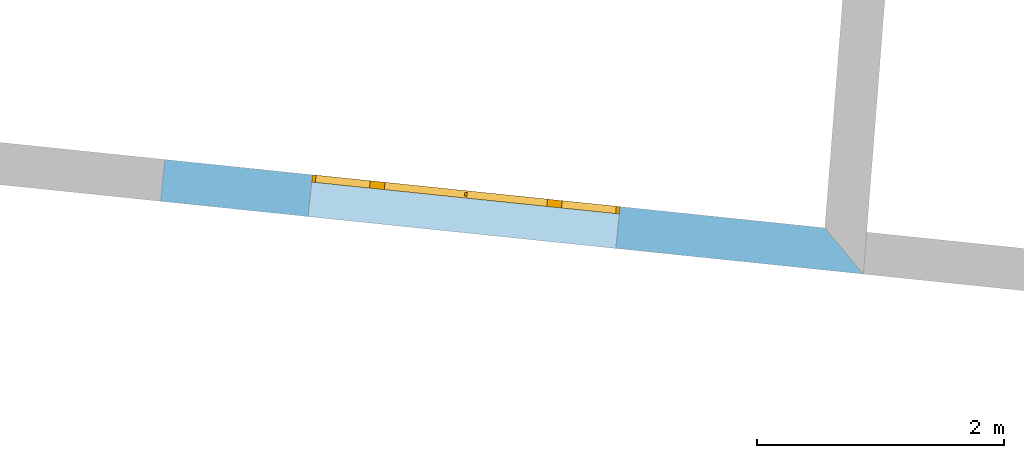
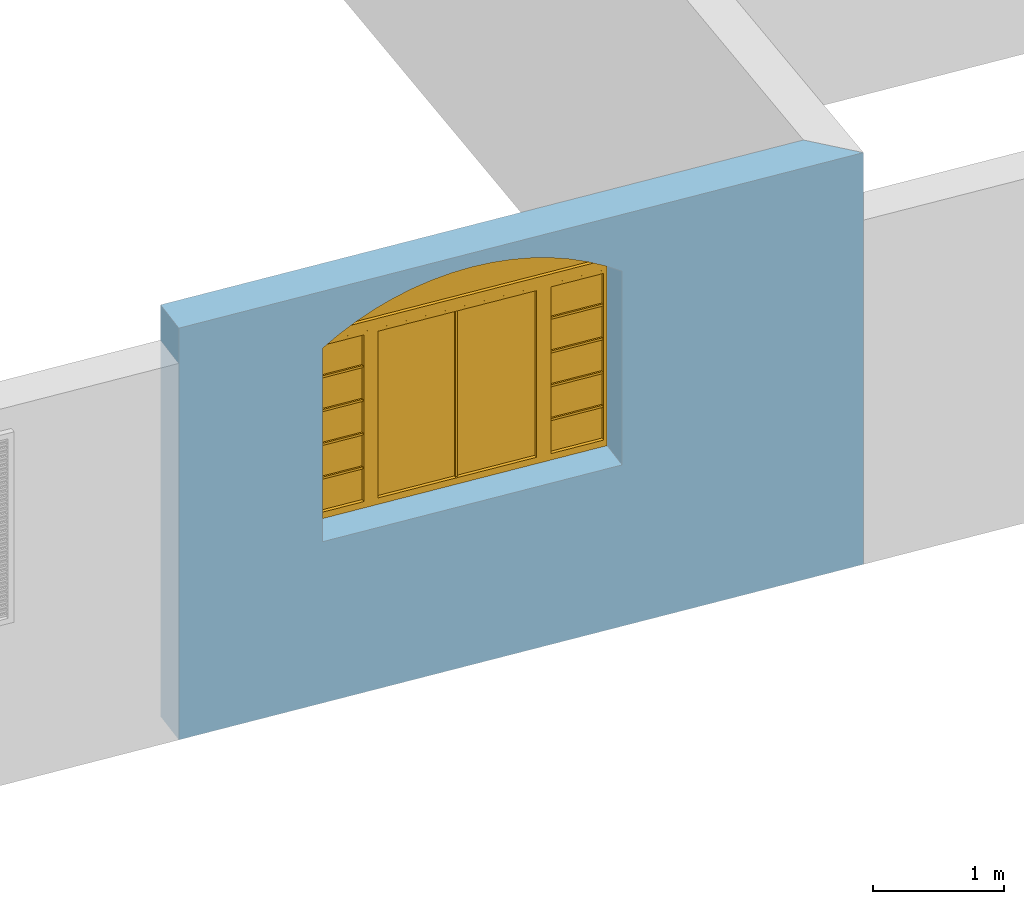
# One storey, part 114 of 171: 1 door, 1 opening, plus 1 element that does not belong to this part.
"""IFC2X3 building model written with IfcOpenShell, lengths in millimetres."""

from ifc_helpers import new_model, entity, si_unit, converted_unit, derived_unit, money_unit, direction, frame, origin_with_axes, place, context, subcontext, project, spatial, polyline, outline, extrude, open_shell, faceted_brep, surface_model, material, layer, layer_set, layer_usage, type_object, element, fill, save


model = new_model("IFC2X3")

# Units and contexts
model_context = context("Model", 3, precision=0.01, world=origin_with_axes(), true_north=direction((0.0, 1.0)))
body_context = subcontext(model_context, "Body", "Model", "MODEL_VIEW")
ifc_project = project(units=[si_unit("LENGTHUNIT", "METRE", prefix="MILLI"), si_unit("AREAUNIT", "SQUARE_METRE"), si_unit("VOLUMEUNIT", "CUBIC_METRE"), converted_unit("PLANEANGLEUNIT", "DEGREE", entity("IfcPlaneAngleMeasure", 0.0174532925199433), si_unit("PLANEANGLEUNIT", "RADIAN"), dimensions=[0, 0, 0, 0, 0, 0, 0]), money_unit("USD"), converted_unit("TIMEUNIT", "Year", entity("IfcTimeMeasure", 31557600.0), si_unit("TIMEUNIT", "SECOND"), dimensions=[0, 0, 1, 0, 0, 0, 0]), si_unit("MASSUNIT", "GRAM", prefix="KILO"), si_unit("THERMODYNAMICTEMPERATUREUNIT", "DEGREE_CELSIUS"), si_unit("LUMINOUSINTENSITYUNIT", "LUMEN"), si_unit("ENERGYUNIT", "JOULE", prefix="MEGA"), derived_unit("THERMALCONDUCTANCEUNIT", [(si_unit("POWERUNIT", "WATT"), 1), (si_unit("LENGTHUNIT", "METRE"), -1), (si_unit("THERMODYNAMICTEMPERATUREUNIT", "KELVIN"), -1)]), derived_unit("SPECIFICHEATCAPACITYUNIT", [(si_unit("ENERGYUNIT", "JOULE"), 1), (si_unit("MASSUNIT", "GRAM", prefix="KILO"), -1), (si_unit("THERMODYNAMICTEMPERATUREUNIT", "KELVIN"), -1)]), derived_unit("MASSDENSITYUNIT", [(si_unit("MASSUNIT", "GRAM", prefix="KILO"), 1), (si_unit("VOLUMEUNIT", "CUBIC_METRE"), -1)])], contexts=[model_context])

# Site, building, storey
site_placement = place(None, origin_with_axes())
site = spatial("IfcSite", under=ifc_project, at=site_placement, Name="Site", CompositionType="ELEMENT")
building_placement = place(site_placement, origin_with_axes())
building = spatial("IfcBuilding", under=site, at=building_placement, Name="Bâtiment", CompositionType="ELEMENT")
storey_placement = place(building_placement, frame((0.0, 0.0, 3000.0), z_axis=(0.0, 0.0, 1.0), x_axis=(1.0, 0.0, 0.0)))
storey = spatial("IfcBuildingStorey", under=building, at=storey_placement, Name="rdc", CompositionType="ELEMENT", Elevation=3000.0)

# Wall, opening, door
ifc_material = material(Name="Empty Fill 272047960")
ifc_layer = layer(ifc_material, 339.9999999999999, ventilated="UNKNOWN")
ifc_layer_set = layer_set([ifc_layer], Name="Empty Fill 272047960 340")
ifc_layer_usage = layer_usage(ifc_layer_set, "AXIS2", "NEGATIVE", 0.0)
wall_type = type_object("IfcWallType", Name="Empty Fill 272047960 340", PredefinedType="NOTDEFINED")
wall_placement = place(storey_placement, frame((2251563.241222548, -592341.9661351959, -500.0), z_axis=(0.0, 0.0, 1.0), x_axis=(-0.994678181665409, 0.103030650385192, 0.0)))
wall = element("IfcWallStandardCase", 1, at=wall_placement, inside=storey, type_object=wall_type, material=ifc_layer_usage, Name="Mur-143", context=body_context, shape_type="SweptSolid", body=[
    extrude(outline(polyline([(348.6680963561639, -339.9999999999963), (5710.689780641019, -339.9999999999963), (5710.689780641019, 0.0), (0.0, 0.0), (348.6680963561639, -339.9999999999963)])), origin_with_axes(), (0.0, 0.0, 1.0), 3827.624612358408),
])
opening_placement = place(wall_placement, frame((3262.311113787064, 0.0, 1500.0), z_axis=(0.0, 0.0, 1.0), x_axis=(1.0, 0.0, 0.0)))
opening = element("IfcOpeningElement", 2, at=opening_placement, cuts=wall, Name="Por-285", context=body_context, shape_type="SweptSolid", body=[
    extrude(outline(polyline([(-1250.0, 0.0), (-1250.0, -1800.0), (-1110.653739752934, -1891.433357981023), (-964.6527194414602, -1971.814582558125), (-812.871740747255, -2040.662049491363), (-656.220237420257, -2097.563241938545), (-495.6368261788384, -2142.177222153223), (-332.0836827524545, -2174.236674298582), (-166.5407767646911, -2193.549506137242), (0.0, -2200.0), (166.5407767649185, -2193.549506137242), (332.0836827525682, -2174.236674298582), (495.6368261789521, -2142.177222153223), (656.2202374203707, -2097.563241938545), (812.8717407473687, -2040.662049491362), (964.6527194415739, -1971.814582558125), (1110.653739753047, -1891.433357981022), (1250.000000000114, -1800.000000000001), (1250.000000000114, 0.0), (-1250.0, 0.0)])), frame((0.0, 339.9999999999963, 0.0), z_axis=(0.0, 1.0, 0.0), x_axis=(1.0, 0.0, 0.0)), (0.0, 0.0, -1.0), 679.9999999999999),
])
door_style = type_object("IfcDoorStyle", ConstructionType="NOTDEFINED", OperationType="NOTDEFINED", ParameterTakesPrecedence=False, Sizeable=False)
door_placement = place(opening_placement, frame((1250.000000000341, 0.0, 0.0), z_axis=(0.0, 0.0, 1.0), x_axis=(-1.0, 0.0, 0.0)))
door = element("IfcDoor", 3, at=door_placement, inside=storey, type_object=door_style, Name="Por-285", OverallHeight=2200.0, OverallWidth=2500.0, context=body_context, shape_type="SurfaceModel", body=[
    surface_model("IfcShellBasedSurfaceModel", [(590.0000000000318, 309.9999999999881, 59.99999999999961), (590.0000000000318, 309.9999999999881, 1609.9), (1909.999999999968, 309.9999999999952, 1609.89999999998), (1909.999999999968, 309.9999999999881, 59.99999999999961)], [open_shell([[[0, 1, 2, 3]]])]),
    faceted_brep([(1240.000000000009, 309.999999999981, 60.0000000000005), (1260.000000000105, 309.9999999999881, 60.0000000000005), (1260.000000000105, 309.9999999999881, 1609.89999999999), (1240.000000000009, 309.999999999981, 1609.899999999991), (1240.000000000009, 324.9999999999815, 60.0000000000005), (1260.000000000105, 324.9999999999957, 60.0000000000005), (1260.000000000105, 324.9999999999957, 1609.89999999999), (1240.000000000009, 324.9999999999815, 1609.899999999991)], [[[0, 1, 2, 3]], [[4, 5, 1, 0]], [[2, 1, 5, 6]], [[3, 2, 6, 7]], [[7, 4, 0, 3]], [[7, 6, 5, 4]]]),
    faceted_brep([(1240.000000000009, 294.9999999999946, 60.0000000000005), (1260.000000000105, 294.9999999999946, 60.0000000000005), (1260.000000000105, 294.9999999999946, 1609.89999999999), (1240.000000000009, 294.9999999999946, 1609.899999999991), (1240.000000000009, 309.999999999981, 60.0000000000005), (1260.000000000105, 309.9999999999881, 60.0000000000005), (1260.000000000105, 309.9999999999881, 1609.89999999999), (1240.000000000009, 309.999999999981, 1609.899999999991)], [[[0, 1, 2, 3]], [[4, 5, 1, 0]], [[2, 1, 5, 6]], [[3, 2, 6, 7]], [[7, 4, 0, 3]], [[7, 6, 5, 4]]]),
    faceted_brep([(560.0000000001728, 280.0000000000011, 59.99999999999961), (560.0000000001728, 280.0000000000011, 1639.9), (559.9999999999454, 339.9999999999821, 1639.9), (559.9999999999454, 339.9999999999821, 59.99999999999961), (590.0000000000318, 279.999999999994, 59.99999999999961), (590.0000000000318, 279.999999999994, 1609.9), (1910.000000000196, 279.999999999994, 1609.9), (1910.000000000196, 279.999999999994, 59.99999999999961), (1940.000000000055, 279.9999999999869, 59.99999999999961), (1940.000000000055, 279.9999999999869, 1639.9), (1940.000000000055, 339.9999999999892, 1639.9), (1940.000000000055, 339.9999999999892, 59.99999999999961), (1909.999999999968, 339.9999999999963, 59.99999999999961), (1909.999999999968, 339.9999999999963, 1609.9), (590.0000000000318, 339.9999999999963, 1609.9), (590.0000000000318, 339.9999999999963, 59.99999999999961)], [[[0, 1, 2, 3]], [[4, 5, 6, 7, 8, 9, 1, 0]], [[1, 9, 10, 2]], [[3, 2, 10, 11, 12, 13, 14, 15]], [[0, 3, 15, 4]], [[15, 14, 5, 4]], [[14, 13, 6, 5]], [[13, 12, 7, 6]], [[8, 7, 12, 11]], [[9, 8, 11, 10]]]),
    faceted_brep([(1940.000000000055, 339.9999999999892, 59.99999999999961), (1940.000000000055, 279.9999999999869, 59.99999999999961), (1940.000000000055, 279.9999999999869, 0.0), (1940.000000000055, 339.9999999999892, 0.0), (559.9999999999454, 339.9999999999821, 59.99999999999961), (560.0000000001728, 280.0000000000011, 59.99999999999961), (560.0000000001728, 280.0000000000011, 0.0), (559.9999999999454, 339.9999999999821, 0.0)], [[[0, 1, 2, 3]], [[4, 5, 1, 0]], [[1, 5, 6, 2]], [[3, 2, 6, 7]], [[0, 3, 7, 4]], [[7, 6, 5, 4]]]),
    surface_model("IfcShellBasedSurfaceModel", [(30.0000000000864, 309.9999999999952, 1730.0), (30.0000000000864, 309.9999999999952, 1783.803162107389), (166.3455908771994, 309.9999999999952, 1872.121819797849), (309.0530282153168, 309.9999999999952, 1949.742002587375), (457.2845146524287, 309.9999999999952, 2016.20802305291), (610.169822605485, 309.9999999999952, 2071.129676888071), (766.811403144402, 309.9999999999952, 2114.184533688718), (926.2896552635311, 309.9999999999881, 2145.119829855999), (1087.668324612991, 309.9999999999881, 2163.753952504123), (1250.000000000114, 309.9999999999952, 2169.977505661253), (1412.331675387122, 309.9999999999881, 2163.753952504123), (1573.710344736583, 309.9999999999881, 2145.119829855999), (1733.188596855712, 309.999999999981, 2114.184533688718), (1889.830177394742, 309.9999999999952, 2071.129676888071), (2042.715485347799, 309.9999999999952, 2016.20802305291), (2190.946971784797, 309.999999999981, 1949.742002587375), (2333.654409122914, 309.999999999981, 1872.121819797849), (2470.000000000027, 309.9999999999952, 1783.803162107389), (2470.000000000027, 309.9999999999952, 1730.0)], [open_shell([[[0, 1, 2, 3, 4, 5, 6, 7, 8, 9, 10, 11, 12, 13, 14, 15, 16, 17, 18]]])]),
    faceted_brep([(0.0, 279.9999999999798, 1730.0), (0.0, 279.9999999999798, 1800.000000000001), (0.0, 339.9999999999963, 1800.000000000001), (0.0, 339.9999999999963, 1730.0), (29.99999999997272, 279.999999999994, 1730.0), (29.99999999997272, 279.999999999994, 1783.803162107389), (154.8328648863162, 279.999999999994, 1865.713419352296), (298.7980931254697, 279.999999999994, 1944.973833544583), (448.4626858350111, 279.9999999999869, 2012.861313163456), (602.9298901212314, 279.9999999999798, 2068.969093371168), (761.2741770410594, 279.9999999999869, 2112.960990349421), (922.5467871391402, 279.999999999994, 2144.573415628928), (1085.781415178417, 279.999999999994, 2163.61695544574), (1250.0, 279.999999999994, 2169.977505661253), (1414.218584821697, 279.9999999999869, 2163.61695544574), (1577.453212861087, 279.999999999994, 2144.573415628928), (1738.725822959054, 279.9999999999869, 2112.960990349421), (1897.070109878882, 279.999999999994, 2068.969093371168), (2051.537314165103, 279.9999999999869, 2012.861313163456), (2201.201906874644, 279.9999999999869, 1944.973833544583), (2345.167135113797, 279.9999999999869, 1865.713419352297), (2470.000000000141, 280.0000000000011, 1783.803162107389), (2470.000000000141, 280.0000000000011, 1730.0), (2500.0, 279.9999999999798, 1730.0), (2500.0, 279.9999999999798, 1800.000000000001), (2360.653739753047, 279.9999999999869, 1891.433357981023), (2214.652719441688, 279.999999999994, 1971.814582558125), (2062.871740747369, 279.9999999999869, 2040.662049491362), (1906.220237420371, 279.999999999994, 2097.563241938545), (1745.636826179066, 279.999999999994, 2142.177222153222), (1582.083682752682, 279.999999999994, 2174.236674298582), (1416.540776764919, 279.999999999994, 2193.549506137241), (1250.0, 279.999999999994, 2200.0), (1083.459223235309, 279.9999999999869, 2193.549506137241), (917.9163172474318, 279.999999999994, 2174.236674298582), (754.3631738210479, 279.9999999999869, 2142.177222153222), (593.7797625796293, 279.9999999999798, 2097.563241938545), (437.128259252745, 279.9999999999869, 2040.662049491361), (285.3472805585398, 279.999999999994, 1971.814582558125), (139.3462602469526, 279.999999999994, 1891.433357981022), (139.3462602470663, 339.9999999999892, 1891.433357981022), (285.3472805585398, 339.9999999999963, 1971.814582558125), (437.128259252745, 339.9999999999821, 2040.662049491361), (593.779762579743, 339.9999999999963, 2097.563241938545), (754.3631738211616, 339.9999999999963, 2142.177222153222), (917.9163172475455, 339.9999999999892, 2174.236674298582), (1083.459223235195, 339.9999999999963, 2193.549506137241), (1250.000000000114, 339.9999999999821, 2200.0), (1416.540776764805, 339.9999999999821, 2193.549506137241), (1582.083682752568, 339.9999999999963, 2174.236674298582), (1745.636826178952, 339.9999999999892, 2142.177222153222), (1906.220237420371, 339.9999999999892, 2097.563241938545), (2062.871740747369, 339.9999999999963, 2040.662049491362), (2214.652719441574, 339.9999999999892, 1971.814582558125), (2360.653739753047, 339.9999999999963, 1891.433357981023), (2500.000000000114, 339.9999999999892, 1800.000000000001), (2500.000000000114, 339.9999999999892, 1730.0), (2470.000000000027, 339.9999999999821, 1730.0), (2470.000000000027, 339.9999999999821, 1783.803162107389), (2345.167135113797, 339.9999999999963, 1865.713419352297), (2201.201906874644, 339.9999999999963, 1944.973833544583), (2051.537314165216, 339.9999999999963, 2012.861313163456), (1897.070109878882, 339.9999999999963, 2068.969093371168), (1738.725822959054, 339.9999999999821, 2112.960990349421), (1577.453212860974, 339.9999999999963, 2144.573415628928), (1414.218584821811, 339.9999999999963, 2163.61695544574), (1250.000000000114, 339.9999999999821, 2169.977505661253), (1085.781415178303, 339.9999999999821, 2163.61695544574), (922.5467871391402, 339.9999999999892, 2144.573415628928), (761.2741770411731, 340.0000000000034, 2112.960990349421), (602.9298901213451, 339.9999999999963, 2068.969093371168), (448.4626858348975, 339.9999999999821, 2012.861313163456), (298.7980931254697, 339.9999999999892, 1944.973833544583), (154.8328648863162, 339.9999999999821, 1865.713419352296), (30.0000000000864, 340.0000000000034, 1783.803162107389), (30.0000000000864, 340.0000000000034, 1730.0)], [[[0, 1, 2, 3]], [[4, 5, 6, 7, 8, 9, 10, 11, 12, 13, 14, 15, 16, 17, 18, 19, 20, 21, 22, 23, 24, 25, 26, 27, 28, 29, 30, 31, 32, 33, 34, 35, 36, 37, 38, 39, 1, 0]], [[1, 39, 40, 2]], [[3, 2, 40, 41, 42, 43, 44, 45, 46, 47, 48, 49, 50, 51, 52, 53, 54, 55, 56, 57, 58, 59, 60, 61, 62, 63, 64, 65, 66, 67, 68, 69, 70, 71, 72, 73, 74, 75]], [[0, 3, 75, 4]], [[75, 74, 5, 4]], [[74, 73, 6, 5]], [[73, 72, 7, 6]], [[72, 71, 8, 7]], [[71, 70, 9, 8]], [[70, 69, 10, 9]], [[69, 68, 11, 10]], [[68, 67, 12, 11]], [[67, 66, 13, 12]], [[66, 65, 14, 13]], [[65, 64, 15, 14]], [[64, 63, 16, 15]], [[63, 62, 17, 16]], [[62, 61, 18, 17]], [[61, 60, 19, 18]], [[60, 59, 20, 19]], [[59, 58, 21, 20]], [[58, 57, 22, 21]], [[23, 22, 57, 56]], [[24, 23, 56, 55]], [[25, 24, 55, 54]], [[26, 25, 54, 53]], [[27, 26, 53, 52]], [[28, 27, 52, 51]], [[29, 28, 51, 50]], [[30, 29, 50, 49]], [[31, 30, 49, 48]], [[32, 31, 48, 47]], [[33, 32, 47, 46]], [[34, 33, 46, 45]], [[35, 34, 45, 44]], [[36, 35, 44, 43]], [[37, 36, 43, 42]], [[38, 37, 42, 41]], [[39, 38, 41, 40]]]),
    faceted_brep([(2500.000000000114, 339.9999999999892, 1730.0), (2500.0, 279.9999999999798, 1730.0), (2500.0, 279.9999999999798, 1700.0), (2500.000000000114, 339.9999999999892, 1700.0), (0.0, 339.9999999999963, 1730.0), (0.0, 279.9999999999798, 1730.0), (0.0, 279.9999999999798, 1700.0), (0.0, 339.9999999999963, 1700.0)], [[[0, 1, 2, 3]], [[4, 5, 1, 0]], [[1, 5, 6, 2]], [[3, 2, 6, 7]], [[0, 3, 7, 4]], [[7, 6, 5, 4]]]),
    surface_model("IfcShellBasedSurfaceModel", [(2030.000000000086, 309.9999999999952, 59.99999999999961), (2030.000000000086, 309.9999999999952, 1609.9), (2470.000000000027, 309.9999999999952, 1609.900000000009), (2470.000000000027, 309.9999999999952, 59.99999999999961)], [open_shell([[[0, 1, 2, 3]]])]),
    faceted_brep([(2030.000000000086, 324.9999999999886, 1315.999992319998), (2030.000000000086, 324.9999999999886, 1295.999992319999), (2030.000000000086, 309.9999999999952, 1295.999992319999), (2030.000000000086, 309.9999999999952, 1315.999992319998), (2469.999999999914, 324.9999999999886, 1315.999992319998), (2469.999999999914, 324.9999999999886, 1295.999992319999), (2470.000000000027, 309.9999999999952, 1295.999992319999), (2470.000000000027, 309.9999999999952, 1315.999992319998)], [[[0, 1, 2, 3]], [[4, 5, 1, 0]], [[2, 1, 5, 6]], [[3, 2, 6, 7]], [[7, 4, 0, 3]], [[7, 6, 5, 4]]]),
    faceted_brep([(2030.000000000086, 309.9999999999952, 981.9999942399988), (2030.000000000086, 309.9999999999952, 1001.999994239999), (2030.000000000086, 324.9999999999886, 1001.999994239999), (2030.000000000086, 324.9999999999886, 981.9999942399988), (2470.000000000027, 309.9999999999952, 981.9999942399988), (2470.000000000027, 309.9999999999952, 1001.999994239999), (2469.999999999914, 324.9999999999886, 1001.999994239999), (2469.999999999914, 324.9999999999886, 981.9999942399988)], [[[0, 1, 2, 3]], [[4, 5, 1, 0]], [[2, 1, 5, 6]], [[3, 2, 6, 7]], [[7, 4, 0, 3]], [[7, 6, 5, 4]]]),
    faceted_brep([(2030.000000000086, 324.9999999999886, 687.9999961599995), (2030.000000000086, 324.9999999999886, 667.999996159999), (2030.000000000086, 309.9999999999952, 667.999996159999), (2030.000000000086, 309.9999999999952, 687.9999961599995), (2469.999999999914, 324.9999999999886, 687.9999961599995), (2469.999999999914, 324.9999999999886, 667.999996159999), (2470.000000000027, 309.9999999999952, 667.999996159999), (2470.000000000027, 309.9999999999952, 687.9999961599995)], [[[0, 1, 2, 3]], [[4, 5, 1, 0]], [[2, 1, 5, 6]], [[3, 2, 6, 7]], [[7, 4, 0, 3]], [[7, 6, 5, 4]]]),
    faceted_brep([(2030.000000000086, 309.9999999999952, 353.99999808), (2030.000000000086, 309.9999999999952, 373.9999980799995), (2030.000000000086, 324.9999999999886, 373.9999980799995), (2030.000000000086, 324.9999999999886, 353.99999808), (2470.000000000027, 309.9999999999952, 353.99999808), (2470.000000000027, 309.9999999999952, 373.9999980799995), (2469.999999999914, 324.9999999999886, 373.9999980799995), (2469.999999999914, 324.9999999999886, 353.99999808)], [[[0, 1, 2, 3]], [[4, 5, 1, 0]], [[2, 1, 5, 6]], [[3, 2, 6, 7]], [[7, 4, 0, 3]], [[7, 6, 5, 4]]]),
    faceted_brep([(2030.000000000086, 309.9999999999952, 1315.999992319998), (2030.000000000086, 309.9999999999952, 1295.999992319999), (2030.000000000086, 294.9999999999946, 1295.999992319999), (2030.000000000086, 294.9999999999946, 1315.999992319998), (2470.000000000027, 309.9999999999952, 1315.999992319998), (2470.000000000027, 309.9999999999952, 1295.999992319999), (2470.000000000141, 294.9999999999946, 1295.999992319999), (2470.000000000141, 294.9999999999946, 1315.999992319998)], [[[0, 1, 2, 3]], [[4, 5, 1, 0]], [[2, 1, 5, 6]], [[3, 2, 6, 7]], [[7, 4, 0, 3]], [[7, 6, 5, 4]]]),
    faceted_brep([(2030.000000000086, 294.9999999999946, 981.9999942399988), (2030.000000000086, 294.9999999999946, 1001.999994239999), (2030.000000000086, 309.9999999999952, 1001.999994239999), (2030.000000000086, 309.9999999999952, 981.9999942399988), (2470.000000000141, 294.9999999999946, 981.9999942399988), (2470.000000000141, 294.9999999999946, 1001.999994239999), (2470.000000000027, 309.9999999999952, 1001.999994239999), (2470.000000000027, 309.9999999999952, 981.9999942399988)], [[[0, 1, 2, 3]], [[4, 5, 1, 0]], [[2, 1, 5, 6]], [[3, 2, 6, 7]], [[7, 4, 0, 3]], [[7, 6, 5, 4]]]),
    faceted_brep([(2030.000000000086, 309.9999999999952, 687.9999961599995), (2030.000000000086, 309.9999999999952, 667.999996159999), (2030.000000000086, 294.9999999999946, 667.999996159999), (2030.000000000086, 294.9999999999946, 687.9999961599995), (2470.000000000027, 309.9999999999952, 687.9999961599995), (2470.000000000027, 309.9999999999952, 667.999996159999), (2470.000000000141, 294.9999999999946, 667.999996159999), (2470.000000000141, 294.9999999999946, 687.9999961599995)], [[[0, 1, 2, 3]], [[4, 5, 1, 0]], [[2, 1, 5, 6]], [[3, 2, 6, 7]], [[7, 4, 0, 3]], [[7, 6, 5, 4]]]),
    faceted_brep([(2030.000000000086, 294.9999999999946, 353.99999808), (2030.000000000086, 294.9999999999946, 373.9999980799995), (2030.000000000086, 309.9999999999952, 373.9999980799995), (2030.000000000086, 309.9999999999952, 353.99999808), (2470.000000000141, 294.9999999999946, 353.99999808), (2470.000000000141, 294.9999999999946, 373.9999980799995), (2470.000000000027, 309.9999999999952, 373.9999980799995), (2470.000000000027, 309.9999999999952, 353.99999808)], [[[0, 1, 2, 3]], [[4, 5, 1, 0]], [[2, 1, 5, 6]], [[3, 2, 6, 7]], [[7, 4, 0, 3]], [[7, 6, 5, 4]]]),
    faceted_brep([(2000.000000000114, 279.999999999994, 59.99999999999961), (2000.000000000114, 279.999999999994, 1639.9), (2000.0, 339.9999999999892, 1639.9), (2000.0, 339.9999999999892, 59.99999999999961), (2030.000000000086, 279.9999999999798, 59.99999999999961), (2030.000000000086, 279.9999999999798, 1609.9), (2470.000000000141, 280.0000000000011, 1609.9), (2470.000000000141, 280.0000000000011, 59.99999999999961), (2500.0, 279.9999999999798, 59.99999999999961), (2500.0, 279.9999999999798, 1639.9), (2500.000000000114, 339.9999999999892, 1639.9), (2500.000000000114, 339.9999999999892, 59.99999999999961), (2470.000000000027, 339.9999999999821, 59.99999999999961), (2470.000000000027, 339.9999999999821, 1609.9), (2030.000000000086, 339.9999999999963, 1609.9), (2030.000000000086, 339.9999999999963, 59.99999999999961)], [[[0, 1, 2, 3]], [[4, 5, 6, 7, 8, 9, 1, 0]], [[1, 9, 10, 2]], [[3, 2, 10, 11, 12, 13, 14, 15]], [[0, 3, 15, 4]], [[15, 14, 5, 4]], [[14, 13, 6, 5]], [[13, 12, 7, 6]], [[8, 7, 12, 11]], [[9, 8, 11, 10]]]),
    faceted_brep([(2500.000000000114, 339.9999999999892, 59.99999999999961), (2500.0, 279.9999999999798, 59.99999999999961), (2500.0, 279.9999999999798, 0.0), (2500.000000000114, 339.9999999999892, 0.0), (2000.0, 339.9999999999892, 59.99999999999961), (2000.000000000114, 279.999999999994, 59.99999999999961), (2000.000000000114, 279.999999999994, 0.0), (2000.0, 339.9999999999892, 0.0)], [[[0, 1, 2, 3]], [[4, 5, 1, 0]], [[1, 5, 6, 2]], [[3, 2, 6, 7]], [[0, 3, 7, 4]], [[7, 6, 5, 4]]]),
    surface_model("IfcShellBasedSurfaceModel", [(30.0000000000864, 309.9999999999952, 59.99999999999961), (30.0000000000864, 309.9999999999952, 1609.9), (470.0000000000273, 309.999999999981, 1609.900000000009), (470.0000000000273, 309.999999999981, 59.99999999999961)], [open_shell([[[0, 1, 2, 3]]])]),
    faceted_brep([(30.0000000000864, 324.9999999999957, 1315.999992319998), (30.0000000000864, 324.9999999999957, 1295.999992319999), (30.0000000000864, 309.9999999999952, 1295.999992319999), (30.0000000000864, 309.9999999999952, 1315.999992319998), (470.0000000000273, 324.9999999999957, 1315.999992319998), (470.0000000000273, 324.9999999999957, 1295.999992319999), (470.0000000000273, 309.999999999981, 1295.999992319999), (470.0000000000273, 309.999999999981, 1315.999992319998)], [[[0, 1, 2, 3]], [[4, 5, 1, 0]], [[2, 1, 5, 6]], [[3, 2, 6, 7]], [[7, 4, 0, 3]], [[7, 6, 5, 4]]]),
    faceted_brep([(30.0000000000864, 309.9999999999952, 981.9999942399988), (30.0000000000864, 309.9999999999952, 1001.999994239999), (30.0000000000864, 324.9999999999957, 1001.999994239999), (30.0000000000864, 324.9999999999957, 981.9999942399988), (470.0000000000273, 309.999999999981, 981.9999942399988), (470.0000000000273, 309.999999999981, 1001.999994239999), (470.0000000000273, 324.9999999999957, 1001.999994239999), (470.0000000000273, 324.9999999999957, 981.9999942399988)], [[[0, 1, 2, 3]], [[4, 5, 1, 0]], [[2, 1, 5, 6]], [[3, 2, 6, 7]], [[7, 4, 0, 3]], [[7, 6, 5, 4]]]),
    faceted_brep([(30.0000000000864, 324.9999999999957, 687.9999961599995), (30.0000000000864, 324.9999999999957, 667.999996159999), (30.0000000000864, 309.9999999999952, 667.999996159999), (30.0000000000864, 309.9999999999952, 687.9999961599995), (470.0000000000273, 324.9999999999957, 687.9999961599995), (470.0000000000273, 324.9999999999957, 667.999996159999), (470.0000000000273, 309.999999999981, 667.999996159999), (470.0000000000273, 309.999999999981, 687.9999961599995)], [[[0, 1, 2, 3]], [[4, 5, 1, 0]], [[2, 1, 5, 6]], [[3, 2, 6, 7]], [[7, 4, 0, 3]], [[7, 6, 5, 4]]]),
    faceted_brep([(30.0000000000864, 309.9999999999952, 353.99999808), (30.0000000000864, 309.9999999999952, 373.9999980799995), (30.0000000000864, 324.9999999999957, 373.9999980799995), (30.0000000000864, 324.9999999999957, 353.99999808), (470.0000000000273, 309.999999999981, 353.99999808), (470.0000000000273, 309.999999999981, 373.9999980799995), (470.0000000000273, 324.9999999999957, 373.9999980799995), (470.0000000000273, 324.9999999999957, 353.99999808)], [[[0, 1, 2, 3]], [[4, 5, 1, 0]], [[2, 1, 5, 6]], [[3, 2, 6, 7]], [[7, 4, 0, 3]], [[7, 6, 5, 4]]]),
    faceted_brep([(30.0000000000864, 309.9999999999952, 1315.999992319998), (30.0000000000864, 309.9999999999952, 1295.999992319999), (30.0000000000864, 294.9999999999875, 1295.999992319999), (30.0000000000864, 294.9999999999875, 1315.999992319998), (470.0000000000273, 309.999999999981, 1315.999992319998), (470.0000000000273, 309.999999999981, 1295.999992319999), (470.0000000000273, 294.9999999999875, 1295.999992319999), (470.0000000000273, 294.9999999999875, 1315.999992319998)], [[[0, 1, 2, 3]], [[4, 5, 1, 0]], [[2, 1, 5, 6]], [[3, 2, 6, 7]], [[7, 4, 0, 3]], [[7, 6, 5, 4]]]),
    faceted_brep([(30.0000000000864, 294.9999999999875, 981.9999942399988), (30.0000000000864, 294.9999999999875, 1001.999994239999), (30.0000000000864, 309.9999999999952, 1001.999994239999), (30.0000000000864, 309.9999999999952, 981.9999942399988), (470.0000000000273, 294.9999999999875, 981.9999942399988), (470.0000000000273, 294.9999999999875, 1001.999994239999), (470.0000000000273, 309.999999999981, 1001.999994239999), (470.0000000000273, 309.999999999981, 981.9999942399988)], [[[0, 1, 2, 3]], [[4, 5, 1, 0]], [[2, 1, 5, 6]], [[3, 2, 6, 7]], [[7, 4, 0, 3]], [[7, 6, 5, 4]]]),
    faceted_brep([(30.0000000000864, 309.9999999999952, 687.9999961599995), (30.0000000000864, 309.9999999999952, 667.999996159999), (30.0000000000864, 294.9999999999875, 667.999996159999), (30.0000000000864, 294.9999999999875, 687.9999961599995), (470.0000000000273, 309.999999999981, 687.9999961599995), (470.0000000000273, 309.999999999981, 667.999996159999), (470.0000000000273, 294.9999999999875, 667.999996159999), (470.0000000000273, 294.9999999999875, 687.9999961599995)], [[[0, 1, 2, 3]], [[4, 5, 1, 0]], [[2, 1, 5, 6]], [[3, 2, 6, 7]], [[7, 4, 0, 3]], [[7, 6, 5, 4]]]),
    faceted_brep([(30.0000000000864, 294.9999999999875, 353.99999808), (30.0000000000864, 294.9999999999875, 373.9999980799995), (30.0000000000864, 309.9999999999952, 373.9999980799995), (30.0000000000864, 309.9999999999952, 353.99999808), (470.0000000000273, 294.9999999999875, 353.99999808), (470.0000000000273, 294.9999999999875, 373.9999980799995), (470.0000000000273, 309.999999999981, 373.9999980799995), (470.0000000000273, 309.999999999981, 353.99999808)], [[[0, 1, 2, 3]], [[4, 5, 1, 0]], [[2, 1, 5, 6]], [[3, 2, 6, 7]], [[7, 4, 0, 3]], [[7, 6, 5, 4]]]),
    faceted_brep([(0.0, 279.9999999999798, 59.99999999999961), (0.0, 279.9999999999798, 1639.9), (0.0, 339.9999999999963, 1639.9), (0.0, 339.9999999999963, 59.99999999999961), (29.99999999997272, 279.999999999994, 59.99999999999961), (29.99999999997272, 279.999999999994, 1609.9), (470.0000000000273, 279.999999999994, 1609.9), (470.0000000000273, 279.999999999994, 59.99999999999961), (500.0000000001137, 279.9999999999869, 59.99999999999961), (500.0000000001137, 279.9999999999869, 1639.9), (500.0, 339.9999999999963, 1639.9), (500.0, 339.9999999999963, 59.99999999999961), (470.0000000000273, 339.9999999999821, 59.99999999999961), (470.0000000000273, 339.9999999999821, 1609.9), (30.0000000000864, 340.0000000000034, 1609.9), (30.0000000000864, 340.0000000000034, 59.99999999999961)], [[[0, 1, 2, 3]], [[4, 5, 6, 7, 8, 9, 1, 0]], [[1, 9, 10, 2]], [[3, 2, 10, 11, 12, 13, 14, 15]], [[0, 3, 15, 4]], [[15, 14, 5, 4]], [[14, 13, 6, 5]], [[13, 12, 7, 6]], [[8, 7, 12, 11]], [[9, 8, 11, 10]]]),
    faceted_brep([(500.0, 339.9999999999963, 59.99999999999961), (500.0000000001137, 279.9999999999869, 59.99999999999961), (500.0000000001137, 279.9999999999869, 0.0), (500.0, 339.9999999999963, 0.0), (0.0, 339.9999999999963, 59.99999999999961), (0.0, 279.9999999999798, 59.99999999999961), (0.0, 279.9999999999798, 0.0), (0.0, 339.9999999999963, 0.0)], [[[0, 1, 2, 3]], [[4, 5, 1, 0]], [[1, 5, 6, 2]], [[3, 2, 6, 7]], [[0, 3, 7, 4]], [[7, 6, 5, 4]]]),
    faceted_brep([(0.0, 339.9999999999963, 1700.0), (0.0, 339.9999999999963, 1640.0), (0.0, 279.9999999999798, 1640.0), (0.0, 279.9999999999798, 1700.0), (2500.000000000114, 339.9999999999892, 1700.0), (2500.000000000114, 339.9999999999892, 1640.0), (2000.0, 339.9999999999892, 1640.0), (2000.0, 339.9999999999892, 0.0), (1940.000000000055, 339.9999999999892, 0.0), (1940.000000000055, 339.9999999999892, 1640.0), (559.9999999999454, 339.9999999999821, 1640.0), (559.9999999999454, 339.9999999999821, 0.0), (500.0, 339.9999999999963, 0.0), (500.0, 339.9999999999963, 1640.0), (500.0000000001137, 279.9999999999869, 1640.0), (500.0000000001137, 279.9999999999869, 0.0), (560.0000000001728, 280.0000000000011, 0.0), (560.0000000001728, 280.0000000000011, 1640.0), (1940.000000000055, 279.9999999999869, 1640.0), (1940.000000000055, 279.9999999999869, 0.0), (2000.000000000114, 279.999999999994, 0.0), (2000.000000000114, 279.999999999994, 1640.0), (2500.0, 279.9999999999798, 1640.0), (2500.0, 279.9999999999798, 1700.0)], [[[0, 1, 2, 3]], [[4, 5, 6, 7, 8, 9, 10, 11, 12, 13, 1, 0]], [[2, 1, 13, 14]], [[3, 2, 14, 15, 16, 17, 18, 19, 20, 21, 22, 23]], [[23, 4, 0, 3]], [[23, 22, 5, 4]], [[6, 5, 22, 21]], [[7, 6, 21, 20]], [[20, 19, 8, 7]], [[8, 19, 18, 9]], [[9, 18, 17, 10]], [[10, 17, 16, 11]], [[15, 12, 11, 16]], [[15, 14, 13, 12]]]),
])
fill(opening, door)

save(model, "model.ifc")
